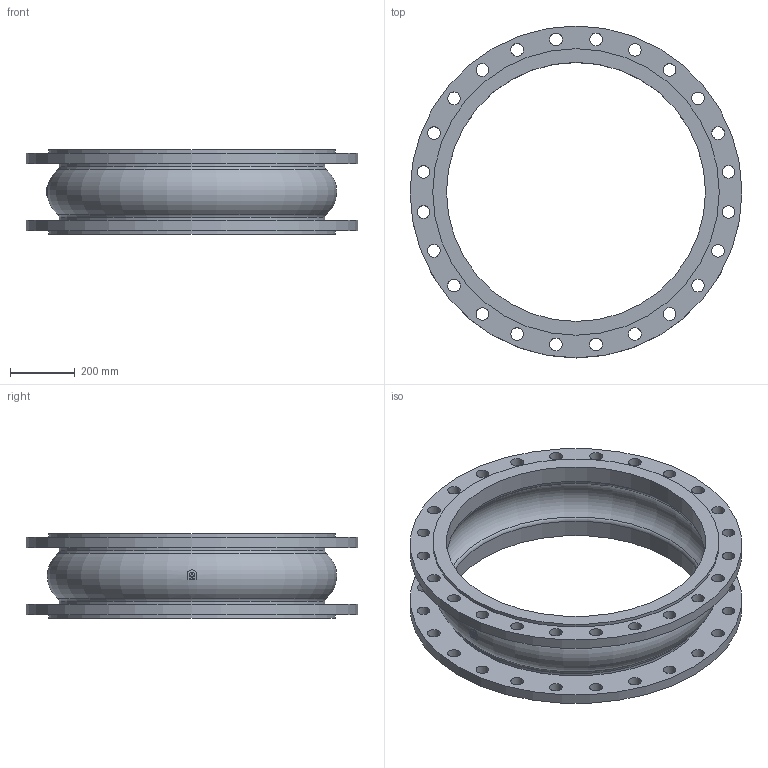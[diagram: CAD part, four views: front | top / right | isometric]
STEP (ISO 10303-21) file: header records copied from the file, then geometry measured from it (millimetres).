
FILE_DESCRIPTION(('STEP AP203'), '1');
FILE_NAME('Êîìïåíñàòîð KMS DN800 PN16_L260', '', ('UNSPECIFIED'), ('UNSPECIFIED'), 'ASCON STEP Converter 1.6', 'ASCON Math Kernel', '');
FILE_SCHEMA(('CONFIG_CONTROL_DESIGN'));
Length unit declared in the file: millimetre
Bounding box: 1025 x 1025 x 260 mm (x, y, z)
Volume: 26409434.4 mm3; surface area: 2846807.1 mm2
Topology: 1 solids, 1 shells, 85 faces, 220 edges, 144 vertices
Faces by surface type: cylinder 63, plane 13, torus 9
Full cylindrical faces by diameter (mm): 39 x48, 800 x2, 820 x2, 885 x2, 1025 x2
Entity records: 4183 total; most frequent: CARTESIAN_POINT 1362, DIRECTION 430, ORIENTED_EDGE 316, EDGE_LOOP 252, AXIS2_PLACEMENT_3D 208, EDGE_CURVE 158, VERTEX_POINT 144, FACE_BOUND 128
